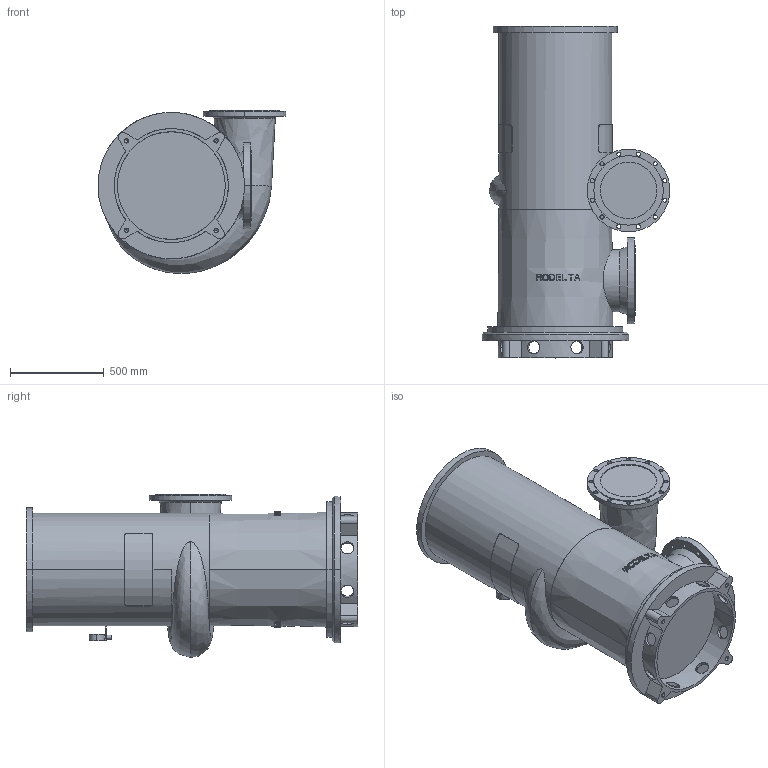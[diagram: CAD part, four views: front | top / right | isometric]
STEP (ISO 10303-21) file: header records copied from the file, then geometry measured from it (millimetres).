
FILE_DESCRIPTION((''),'2;1');
FILE_NAME('12-520_ASM','2024-08-06T',('Lyritlocal'),(''),'PRO/ENGINEER BY PARAMETRIC TECHNOLOGY CORPORATION, 2016360','PRO/ENGINEER BY PARAMETRIC TECHNOLOGY CORPORATION, 2016360','');
FILE_SCHEMA(('CONFIG_CONTROL_DESIGN'));
Length unit declared in the file: millimetre
Products named in the file (3): 12-520; 12-520_VOET; 12-520_ASM
Assembly tree (2 placements, depth 2):
  12-520_ASM
    12-520
    12-520_VOET
Bounding box: 1000 x 1766.5 x 868.29 mm (x, y, z)
Volume: 566586530 mm3; surface area: 6652634.1 mm2
Topology: 2 solids, 6 shells, 503 faces, 1366 edges, 900 vertices
Faces by surface type: plane 323, cylinder 138, cone 36, bspline 6
Entity records: 17785 total; most frequent: CARTESIAN_POINT 5428, ORIENTED_EDGE 2700, DIRECTION 2313, EDGE_CURVE 1358, VERTEX_POINT 900, AXIS2_PLACEMENT_3D 896, EDGE_LOOP 608, VECTOR 521
